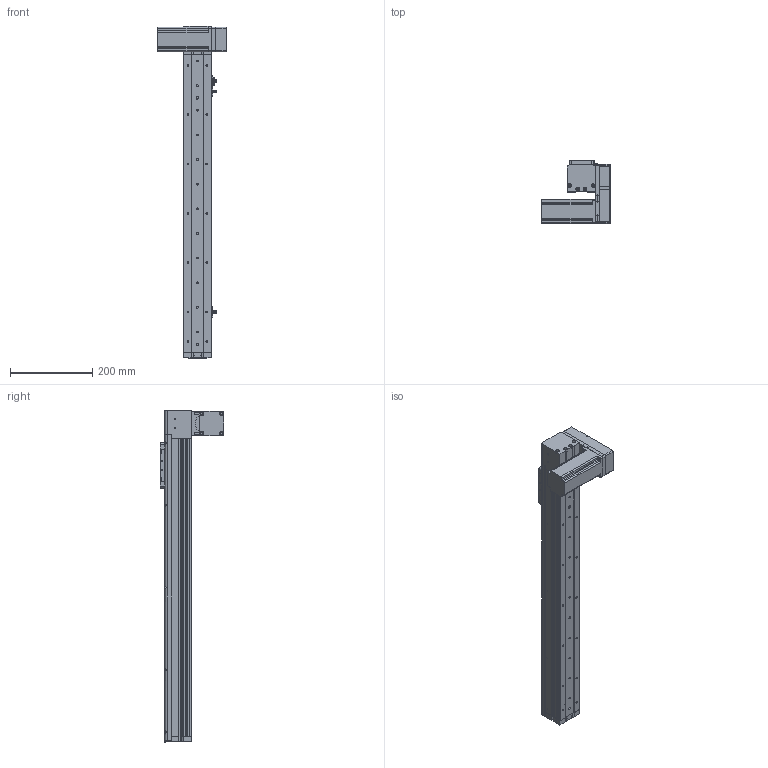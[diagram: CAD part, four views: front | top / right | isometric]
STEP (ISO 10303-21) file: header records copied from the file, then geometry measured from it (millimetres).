
FILE_DESCRIPTION (( 'STEP AP214' ), '1' );
FILE_NAME ('KSD68BS-S550-MLD-CR.STEP', '2019-11-07T05:32:03', ( '微软用户' ), ( '微软中国' ), 'SwSTEP 2.0', 'SolidWorks 2014', '' );
FILE_SCHEMA (( 'AUTOMOTIVE_DESIGN' ));
Length unit declared in the file: millimetre
Products named in the file (14): KSD68BS 550行程盖板全封闭; 68遵裔啣揤啣1; 68宽单导轨全封闭丝杆传动安装板1防护罩; KSD68BS 550行程侧板全封闭; 68宽单导轨全封闭同步带端板; 68单导轨全封闭同步带电机座左; 68单导轨全封闭同步带安装板; 悵誘欶奻狟殏; 68宽马达安装板连板上折同步带; 感应片68宽全封闭; U倰嫖萇EEㄜSX672; 台达ECMA－C20604AS伺服电机（400W); KSD68BS 550行程底板全封闭; KSD68BS-S550-MLD-CR
Assembly tree (17 placements, depth 2):
  KSD68BS-S550-MLD-CR
    KSD68BS 550行程底板全封闭
    台达ECMA－C20604AS伺服电机（400W)
    U倰嫖萇EEㄜSX672  x3
    感应片68宽全封闭
    68宽马达安装板连板上折同步带
    悵誘欶奻狟殏
    68单导轨全封闭同步带安装板
    68单导轨全封闭同步带电机座左
    68宽单导轨全封闭同步带端板
    KSD68BS 550行程侧板全封闭  x2
    68宽单导轨全封闭丝杆传动安装板1防护罩
    68遵裔啣揤啣1  x2
    KSD68BS 550行程盖板全封闭
Bounding box: 167.2 x 155.5 x 808.1 mm (x, y, z)
Volume: 1929841.5 mm3; surface area: 686228.9 mm2
Topology: 18 solids, 18 shells, 1439 faces, 4065 edges, 2608 vertices
Faces by surface type: cylinder 666, plane 625, cone 148
Entity records: 44995 total; most frequent: CARTESIAN_POINT 7665, DIRECTION 6770, ORIENTED_EDGE 6482, EDGE_CURVE 3241, AXIS2_PLACEMENT_3D 2425, VERTEX_POINT 2126, VECTOR 1920, LINE 1920
